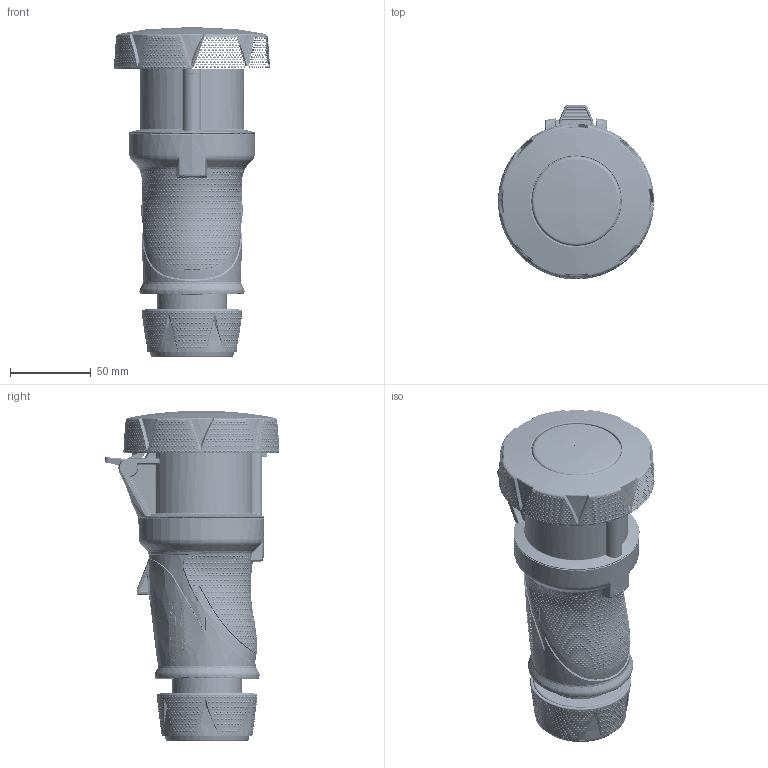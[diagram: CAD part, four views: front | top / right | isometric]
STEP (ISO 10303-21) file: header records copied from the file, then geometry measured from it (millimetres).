
FILE_DESCRIPTION((''),'2;1');
FILE_NAME('14625_SW0006','2024-02-26T10:59:24',('rettler001'),('MENNEKES'),'CREO PARAMETRIC BY PTC INC, 2019080','CREO PARAMETRIC BY PTC INC, 2019080','');
FILE_SCHEMA(('AUTOMOTIVE_DESIGN { 1 0 10303 214 1 1 1 1 }'));
Length unit declared in the file: millimetre
Products named in the file (1): 14625_SW0006
Bounding box: 96.57 x 108.22 x 204.54 mm (x, y, z)
Volume: 739775.7 mm3; surface area: 69857.8 mm2
Topology: 1 solids, 1 shells, 5274 faces, 14351 edges, 12355 vertices
Faces by surface type: torus 3492, bspline 978, cylinder 427, plane 251, extrusion 52, cone 47, sphere 27
Entity records: 350466 total; most frequent: CARTESIAN_POINT 187465, ORIENTED_EDGE 28660, EDGE_CURVE 14330, B_SPLINE_CURVE_WITH_KNOTS 13071, VERTEX_POINT 12354, DIRECTION 10569, EDGE_LOOP 8578, FILL_AREA_STYLE_COLOUR 7746
